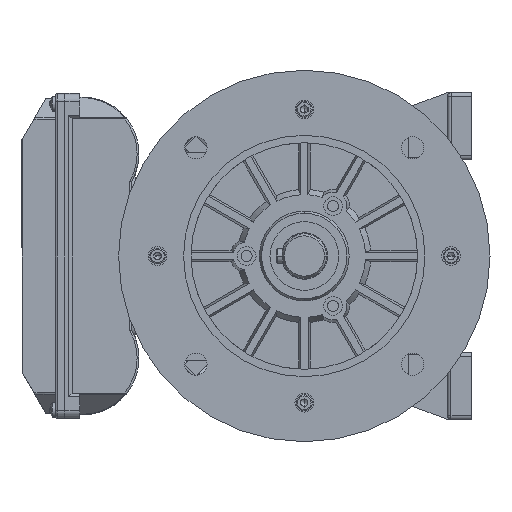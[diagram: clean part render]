
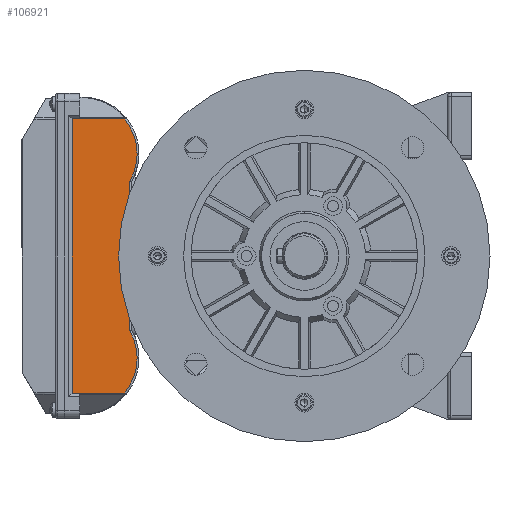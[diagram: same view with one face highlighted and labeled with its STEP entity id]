
A CAD part, left-side view. The second image highlights one B-rep face of the part: STEP entity #106921.
In plain terms, the highlighted planar face has unit normal (-1, 0, 0) as drawn and (0, 0, 1) by its records, which use the part's own axes.
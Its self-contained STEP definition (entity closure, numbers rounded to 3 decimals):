
#52 = EDGE_CURVE ( 'NONE', #10146, #82019, #38822, .T. ) ;
#4147 = DIRECTION ( 'NONE',  ( 0., 0., 1. ) ) ;
#4166 = AXIS2_PLACEMENT_3D ( 'NONE', #40919, #4147, #80057 ) ;
#8705 = VECTOR ( 'NONE', #116619, 1000. ) ;
#9359 = ORIENTED_EDGE ( 'NONE', *, *, #82271, .T. ) ;
#10146 = VERTEX_POINT ( 'NONE', #15018 ) ;
#10986 = ORIENTED_EDGE ( 'NONE', *, *, #25147, .T. ) ;
#15018 = CARTESIAN_POINT ( 'NONE',  ( 162.293, 34.5, 129. ) ) ;
#17748 = LINE ( 'NONE', #58619, #99086 ) ;
#19047 = CARTESIAN_POINT ( 'NONE',  ( 14.707, 34.5, 129. ) ) ;
#19356 = CARTESIAN_POINT ( 'NONE',  ( 162.293, 6.261, 129. ) ) ;
#19799 = EDGE_CURVE ( 'NONE', #65044, #10146, #114873, .T. ) ;
#22011 = ORIENTED_EDGE ( 'NONE', *, *, #37659, .T. ) ;
#25147 = EDGE_CURVE ( 'NONE', #35124, #80518, #61990, .T. ) ;
#26010 = LINE ( 'NONE', #99691, #57066 ) ;
#26291 = CARTESIAN_POINT ( 'NONE',  ( 128.668, 3.5, 129. ) ) ;
#26559 = VECTOR ( 'NONE', #32070, 1000. ) ;
#27761 = CARTESIAN_POINT ( 'NONE',  ( 14.707, 30.5, 129. ) ) ;
#28487 = VECTOR ( 'NONE', #68853, 1000. ) ;
#28591 = EDGE_LOOP ( 'NONE', ( #90657, #121215, #82241, #47551, #22011, #10986, #9359, #35520 ) ) ;
#29296 = DIRECTION ( 'NONE',  ( 0., -1., 0. ) ) ;
#32070 = DIRECTION ( 'NONE',  ( 0., -1., 0. ) ) ;
#34730 = DIRECTION ( 'NONE',  ( 1., 0., 0. ) ) ;
#34816 = DIRECTION ( 'NONE',  ( 0., 1., 0. ) ) ;
#34835 = VERTEX_POINT ( 'NONE', #52224 ) ;
#35124 = VERTEX_POINT ( 'NONE', #27761 ) ;
#35520 = ORIENTED_EDGE ( 'NONE', *, *, #78050, .T. ) ;
#37659 = EDGE_CURVE ( 'NONE', #65044, #35124, #17748, .T. ) ;
#38822 = LINE ( 'NONE', #60209, #28487 ) ;
#39737 = LINE ( 'NONE', #50106, #8705 ) ;
#40026 = CIRCLE ( 'NONE', #4166, 29.5 ) ;
#40919 = CARTESIAN_POINT ( 'NONE',  ( 143.5, 29., 129. ) ) ;
#41025 = DIRECTION ( 'NONE',  ( 1., 0., 0. ) ) ;
#42346 = CARTESIAN_POINT ( 'NONE',  ( 3., -7.5, 129. ) ) ;
#47551 = ORIENTED_EDGE ( 'NONE', *, *, #19799, .F. ) ;
#48167 = CIRCLE ( 'NONE', #57216, 29.5 ) ;
#50106 = CARTESIAN_POINT ( 'NONE',  ( 128.4, 3.5, 129. ) ) ;
#52224 = CARTESIAN_POINT ( 'NONE',  ( 48.332, 3.5, 129. ) ) ;
#54037 = EDGE_CURVE ( 'NONE', #84949, #68250, #40026, .T. ) ;
#57066 = VECTOR ( 'NONE', #34816, 1000. ) ;
#57209 = VECTOR ( 'NONE', #41025, 1000. ) ;
#57211 = CARTESIAN_POINT ( 'NONE',  ( 33.5, 29., 129. ) ) ;
#57216 = AXIS2_PLACEMENT_3D ( 'NONE', #57211, #105867, #34730 ) ;
#58619 = CARTESIAN_POINT ( 'NONE',  ( 14.707, 34.5, 129. ) ) ;
#60209 = CARTESIAN_POINT ( 'NONE',  ( 162.293, 34.5, 129. ) ) ;
#61990 = LINE ( 'NONE', #108484, #26559 ) ;
#65044 = VERTEX_POINT ( 'NONE', #19047 ) ;
#68250 = VERTEX_POINT ( 'NONE', #19356 ) ;
#68853 = DIRECTION ( 'NONE',  ( 0., -1., 0. ) ) ;
#69053 = CARTESIAN_POINT ( 'NONE',  ( 14.707, 34.5, 129. ) ) ;
#69550 = DIRECTION ( 'NONE',  ( 1., 0., 0. ) ) ;
#78050 = EDGE_CURVE ( 'NONE', #34835, #84949, #39737, .T. ) ;
#79461 = PLANE ( 'NONE',  #114272 ) ;
#80057 = DIRECTION ( 'NONE',  ( 1., 0., 0. ) ) ;
#80518 = VERTEX_POINT ( 'NONE', #116577 ) ;
#82019 = VERTEX_POINT ( 'NONE', #93431 ) ;
#82241 = ORIENTED_EDGE ( 'NONE', *, *, #52, .F. ) ;
#82271 = EDGE_CURVE ( 'NONE', #80518, #34835, #48167, .T. ) ;
#82931 = EDGE_CURVE ( 'NONE', #68250, #82019, #26010, .T. ) ;
#84143 = FACE_OUTER_BOUND ( 'NONE', #28591, .T. ) ;
#84949 = VERTEX_POINT ( 'NONE', #26291 ) ;
#90657 = ORIENTED_EDGE ( 'NONE', *, *, #54037, .T. ) ;
#93431 = CARTESIAN_POINT ( 'NONE',  ( 162.293, 30.5, 129. ) ) ;
#99086 = VECTOR ( 'NONE', #29296, 1000. ) ;
#99691 = CARTESIAN_POINT ( 'NONE',  ( 162.293, -7.5, 129. ) ) ;
#105867 = DIRECTION ( 'NONE',  ( 0., 0., 1. ) ) ;
#106921 = ADVANCED_FACE ( 'NONE', ( #84143 ), #79461, .T. ) ;
#108442 = DIRECTION ( 'NONE',  ( 0., 0., 1. ) ) ;
#108484 = CARTESIAN_POINT ( 'NONE',  ( 14.707, -7.5, 129. ) ) ;
#114272 = AXIS2_PLACEMENT_3D ( 'NONE', #42346, #108442, #69550 ) ;
#114873 = LINE ( 'NONE', #69053, #57209 ) ;
#116577 = CARTESIAN_POINT ( 'NONE',  ( 14.707, 6.261, 129. ) ) ;
#116619 = DIRECTION ( 'NONE',  ( 1., 0., 0. ) ) ;
#121215 = ORIENTED_EDGE ( 'NONE', *, *, #82931, .T. ) ;
